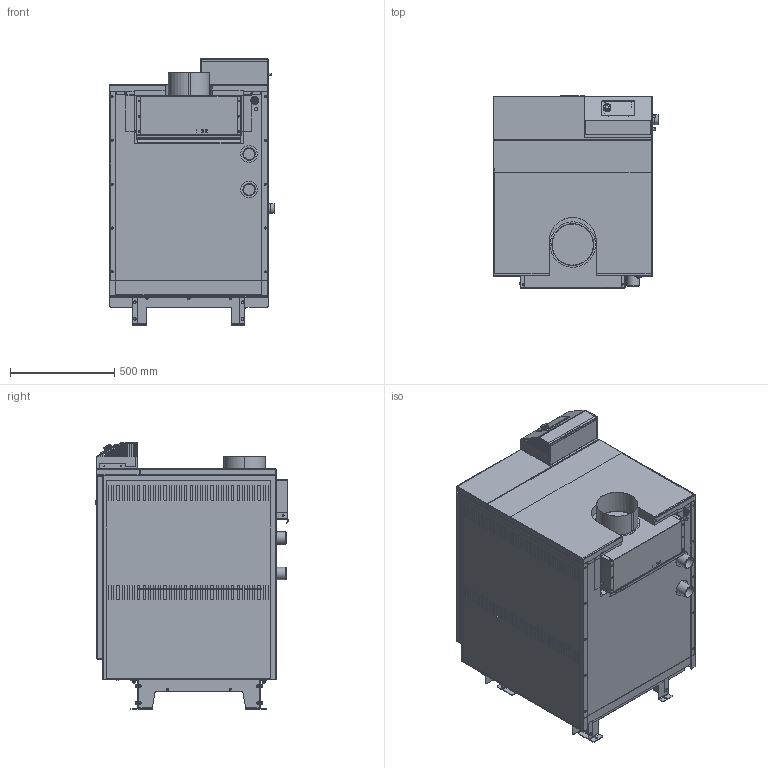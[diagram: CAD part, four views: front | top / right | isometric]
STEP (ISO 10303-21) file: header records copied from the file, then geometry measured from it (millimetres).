
FILE_DESCRIPTION(('STEP AP203'), '1');
FILE_NAME('ÊÅÂÌ.3107.00.00.000 ÑÁ Êîòåë ñòàëüíîé âîäîãðåéíûé TITAN V Ì', '2026-07-22T09:03:13', (''), (''), 'ASCON STEP Converter 1.6', 'ASCON Math Kernel', '');
FILE_SCHEMA(('CONFIG_CONTROL_DESIGN'));
Length unit declared in the file: millimetre
Products named in the file (1): КЕВМ.3107.00.00.000 СБ
Bounding box: 791 x 919.43 x 1275 mm (x, y, z)
Volume: 588640758.6 mm3; surface area: 15685198.3 mm2
Topology: 7 solids, 7 shells, 5686 faces, 14827 edges, 9439 vertices
Faces by surface type: plane 3523, cylinder 1490, bspline 428, cone 113, torus 92, sphere 38, extrusion 2
Full cylindrical faces by diameter (mm): 1.5 x6, 2 x3, 2.45 x14, 2.5 x6, 3.5 x20, 4 x36, 4.2 x42, 4.5 x36, 4.7 x1, 5 x4, 5.2 x4, 6 x5, 6.4 x4, 7 x2, 8 x32, 8.5 x18, 9 x14, 10 x41, 10.421 x1, 12 x1, 14 x1, 14.795 x1, 15 x1, 16 x14, 18 x4, 19.169 x1, 23.542 x1, 24.5 x2, 27.916 x1, 30.664 x1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
Entity records: 206373 total; most frequent: CARTESIAN_POINT 67746, ORIENTED_EDGE 28552, DIRECTION 27385, EDGE_CURVE 14276, VECTOR 9477, LINE 9475, VERTEX_POINT 9438, AXIS2_PLACEMENT_3D 8954
